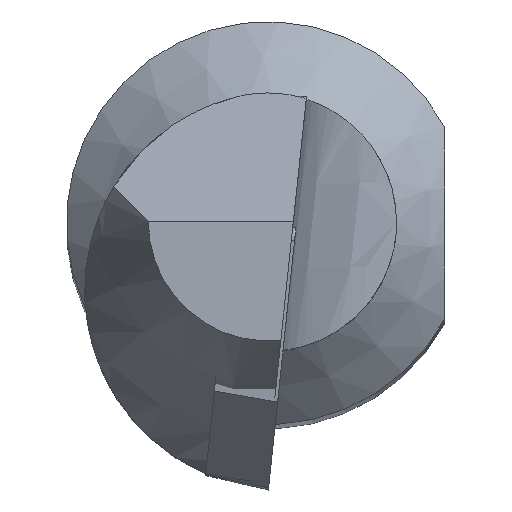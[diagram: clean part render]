
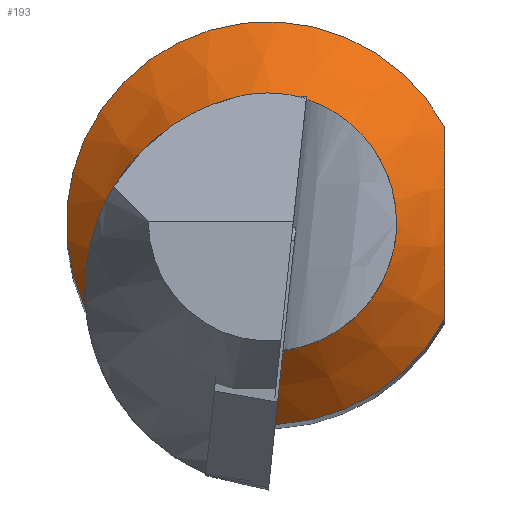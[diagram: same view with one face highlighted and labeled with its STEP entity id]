
A CAD part, top view. The second image highlights one B-rep face of the part: STEP entity #193.
In plain terms, the highlighted conical face has half-angle 45 degrees and reference radius 12.5 mm.
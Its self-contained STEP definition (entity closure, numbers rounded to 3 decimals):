
#113=FACE_BOUND('',#243,.T.);
#114=FACE_BOUND('',#244,.T.);
#193=ADVANCED_FACE('',(#113,#114),#215,.T.);
#215=CONICAL_SURFACE('',#504,12.5,45.);
#243=EDGE_LOOP('',(#314));
#244=EDGE_LOOP('',(#315,#316));
#273=CIRCLE('',#501,8.);
#274=CIRCLE('',#503,12.5);
#314=ORIENTED_EDGE('',*,*,#446,.F.);
#315=ORIENTED_EDGE('',*,*,#447,.T.);
#316=ORIENTED_EDGE('',*,*,#448,.T.);
#403=VERTEX_POINT('',#731);
#404=VERTEX_POINT('',#734);
#405=VERTEX_POINT('',#735);
#446=EDGE_CURVE('',#403,#403,#273,.T.);
#447=EDGE_CURVE('',#404,#405,#274,.T.);
#448=EDGE_CURVE('',#405,#404,#487,.T.);
#487=B_SPLINE_CURVE_WITH_KNOTS('',3,(#736,#737,#738,#739,#740,#741),
 .UNSPECIFIED.,.F.,.F.,(4,2,4),(0.,0.5,1.),.UNSPECIFIED.);
#501=AXIS2_PLACEMENT_3D('',#730,#561,#562);
#503=AXIS2_PLACEMENT_3D('',#733,#565,#566);
#504=AXIS2_PLACEMENT_3D('',#742,#567,#568);
#561=DIRECTION('',(0.,0.,1.));
#562=DIRECTION('',(1.,0.,0.));
#565=DIRECTION('',(0.,0.,1.));
#566=DIRECTION('',(1.,0.,0.));
#567=DIRECTION('',(0.,0.,-1.));
#568=DIRECTION('',(-1.,0.,0.));
#730=CARTESIAN_POINT('',(0.,0.,-54.6));
#731=CARTESIAN_POINT('',(8.,0.,-54.6));
#733=CARTESIAN_POINT('',(0.,0.,-59.1));
#734=CARTESIAN_POINT('',(11.,5.937,-59.1));
#735=CARTESIAN_POINT('',(11.,-5.937,-59.1));
#736=CARTESIAN_POINT('',(11.,-5.937,-59.1));
#737=CARTESIAN_POINT('',(11.,-4.075,-58.216));
#738=CARTESIAN_POINT('',(11.,-2.071,-57.599));
#739=CARTESIAN_POINT('',(11.,2.087,-57.601));
#740=CARTESIAN_POINT('',(11.,4.093,-58.224));
#741=CARTESIAN_POINT('',(11.,5.937,-59.1));
#742=CARTESIAN_POINT('',(0.,0.,-59.1));
